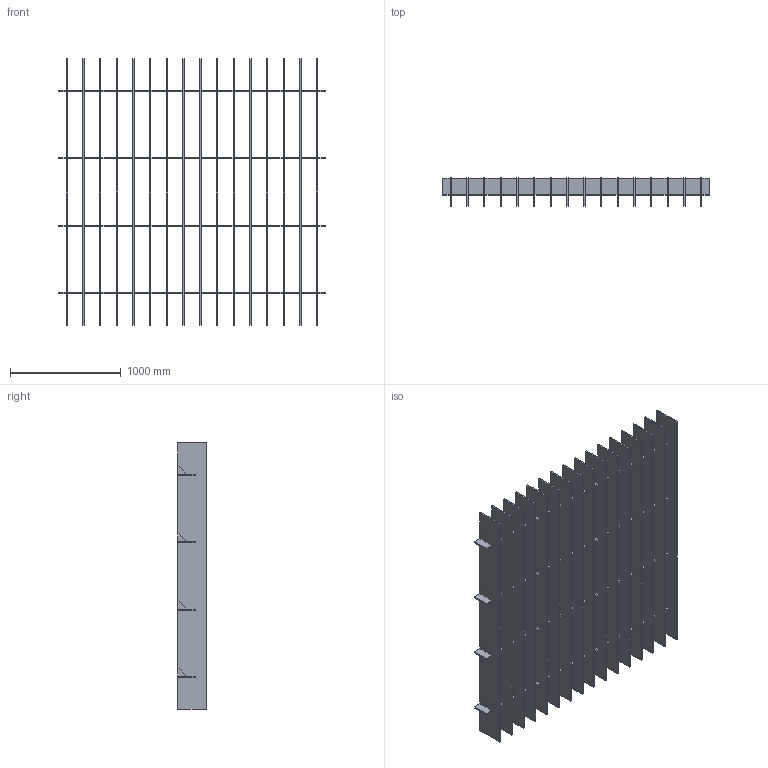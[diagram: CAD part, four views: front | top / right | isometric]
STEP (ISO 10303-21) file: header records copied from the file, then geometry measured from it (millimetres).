
FILE_DESCRIPTION(/* description */ (''),/* implementation_level */ '2;1');
FILE_NAME(/* name */ 'Y:\Design and Engineering\MaterialLogiq\CAD ASSETS\MASTER\BAFFLE\WEB ASSETS\PET BAFFLE_16FIN_8x8_10_FLAT.stp',/* time_stamp */ '2023-11-16T12:14:50-06:00',/* author */ ('Grant Baker'),/* organization */ (''),/* preprocessor_version */ 'ST-DEVELOPER v19',/* originating_system */ 'Autodesk Inventor 2023',/* authorisation */ '');
FILE_SCHEMA (('AUTOMOTIVE_DESIGN { 1 0 10303 214 3 1 1 }'));
Length unit declared in the file: inch
Products named in the file (3): PET BAFFLE_PARAMETRIC_11.02.2023; PET BAFFLE_BEAM; PET BAFFLE_FIN_96in_STANDARD
Assembly tree (20 placements, depth 2):
  PET BAFFLE_PARAMETRIC_11.02.2023
    PET BAFFLE_BEAM  x4
    PET BAFFLE_FIN_96in_STANDARD  x16
Bounding box: 2413 x 254 x 2413 mm (x, y, z)
Volume: 136727893.8 mm3; surface area: 24067253.3 mm2
Topology: 84 solids, 84 shells, 1528 faces, 4080 edges, 2720 vertices
Faces by surface type: plane 1528
Entity records: 6445 total; most frequent: CARTESIAN_POINT 1139, ORIENTED_EDGE 1104, DIRECTION 990, LINE 552, VECTOR 552, EDGE_CURVE 552, VERTEX_POINT 368, AXIS2_PLACEMENT_3D 219
